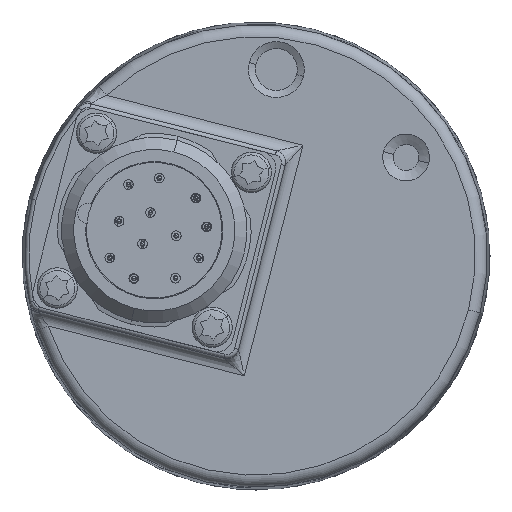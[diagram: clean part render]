
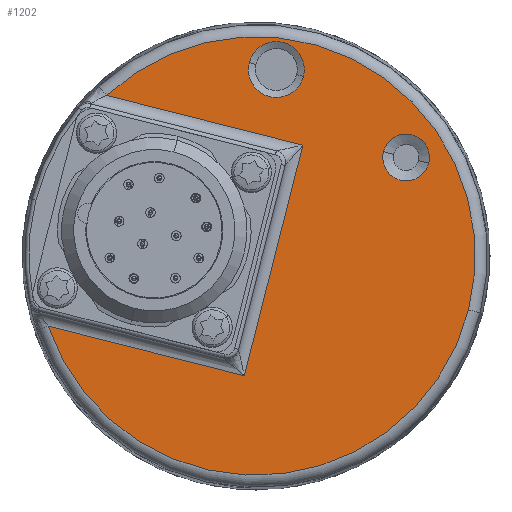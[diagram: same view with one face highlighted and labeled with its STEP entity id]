
A CAD part, left-side view. The second image highlights one B-rep face of the part: STEP entity #1202.
In plain terms, the highlighted planar face has unit normal (-1, 0, 0).
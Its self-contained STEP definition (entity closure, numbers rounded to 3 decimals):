
#694 = CARTESIAN_POINT ( 'NONE',  ( -19., 0., 0. ) ) ;
#695 = AXIS2_PLACEMENT_3D ( 'NONE', #694, #914, #913 ) ;
#696 = CIRCLE ( 'NONE', #695, 27.173 ) ;
#697 = LINE ( 'NONE', #911, #910 ) ;
#909 = DIRECTION ( 'NONE',  ( 0., -0.969, -0.246 ) ) ;
#910 = VECTOR ( 'NONE', #909, 1000. ) ;
#911 = CARTESIAN_POINT ( 'NONE',  ( -19., -4.351, 14.114 ) ) ;
#913 = DIRECTION ( 'NONE',  ( 0., -0.969, -0.246 ) ) ;
#914 = DIRECTION ( 'NONE',  ( -1., 0., 0. ) ) ;
#1003 = VERTEX_POINT ( 'NONE', #4934 ) ;
#1005 = EDGE_CURVE ( 'NONE', #1006, #1003, #4933, .T. ) ;
#1006 = VERTEX_POINT ( 'NONE', #4928 ) ;
#1011 = VERTEX_POINT ( 'NONE', #4973 ) ;
#1017 = EDGE_CURVE ( 'NONE', #1046, #13014, #696, .T. ) ;
#1018 = ORIENTED_EDGE ( 'NONE', *, *, #13013, .T. ) ;
#1019 = ORIENTED_EDGE ( 'NONE', *, *, #1020, .T. ) ;
#1020 = EDGE_CURVE ( 'NONE', #12949, #1011, #697, .T. ) ;
#1021 = ORIENTED_EDGE ( 'NONE', *, *, #1215, .T. ) ;
#1043 = EDGE_LOOP ( 'NONE', ( #1044, #1047, #1018, #1019, #1021 ) ) ;
#1044 = ORIENTED_EDGE ( 'NONE', *, *, #1045, .T. ) ;
#1045 = EDGE_CURVE ( 'NONE', #1077, #1046, #1356, .T. ) ;
#1046 = VERTEX_POINT ( 'NONE', #1352 ) ;
#1047 = ORIENTED_EDGE ( 'NONE', *, *, #1017, .T. ) ;
#1077 = VERTEX_POINT ( 'NONE', #1489 ) ;
#1110 = EDGE_LOOP ( 'NONE', ( #1203, #1204 ) ) ;
#1118 = VERTEX_POINT ( 'NONE', #1600 ) ;
#1120 = EDGE_CURVE ( 'NONE', #1121, #1118, #1599, .T. ) ;
#1121 = VERTEX_POINT ( 'NONE', #1594 ) ;
#1196 = ORIENTED_EDGE ( 'NONE', *, *, #1120, .T. ) ;
#1197 = ORIENTED_EDGE ( 'NONE', *, *, #1229, .T. ) ;
#1202 = ADVANCED_FACE ( 'NONE', ( #2265, #2264, #2263 ), #2321, .F. ) ;
#1203 = ORIENTED_EDGE ( 'NONE', *, *, #1005, .T. ) ;
#1204 = ORIENTED_EDGE ( 'NONE', *, *, #1228, .T. ) ;
#1205 = EDGE_LOOP ( 'NONE', ( #1196, #1197 ) ) ;
#1215 = EDGE_CURVE ( 'NONE', #1011, #1077, #2341, .T. ) ;
#1228 = EDGE_CURVE ( 'NONE', #1003, #1006, #2349, .T. ) ;
#1229 = EDGE_CURVE ( 'NONE', #1118, #1121, #2393, .T. ) ;
#1352 = CARTESIAN_POINT ( 'NONE',  ( -19., 25.745, -8.691 ) ) ;
#1353 = DIRECTION ( 'NONE',  ( 0., 0.969, 0.246 ) ) ;
#1354 = VECTOR ( 'NONE', #1353, 1000. ) ;
#1355 = CARTESIAN_POINT ( 'NONE',  ( -19., 28.251, -8.056 ) ) ;
#1356 = LINE ( 'NONE', #1355, #1354 ) ;
#1489 = CARTESIAN_POINT ( 'NONE',  ( -19., 1.443, -14.851 ) ) ;
#1594 = CARTESIAN_POINT ( 'NONE',  ( -19., -15.791, 12.921 ) ) ;
#1595 = DIRECTION ( 'NONE',  ( 0., -0.969, -0.246 ) ) ;
#1596 = DIRECTION ( 'NONE',  ( 1., 0., 0. ) ) ;
#1597 = CARTESIAN_POINT ( 'NONE',  ( -19., -18.601, 12.209 ) ) ;
#1598 = AXIS2_PLACEMENT_3D ( 'NONE', #1597, #1596, #1595 ) ;
#1599 = CIRCLE ( 'NONE', #1598, 2.899 ) ;
#1600 = CARTESIAN_POINT ( 'NONE',  ( -19., -21.412, 11.496 ) ) ;
#2263 = FACE_OUTER_BOUND ( 'NONE', #1043, .T. ) ;
#2264 = FACE_BOUND ( 'NONE', #1205, .T. ) ;
#2265 = FACE_BOUND ( 'NONE', #1110, .T. ) ;
#2316 = DIRECTION ( 'NONE',  ( 0., -0.969, -0.246 ) ) ;
#2317 = DIRECTION ( 'NONE',  ( 1., 0., 0. ) ) ;
#2318 = CARTESIAN_POINT ( 'NONE',  ( -19., 0., 0. ) ) ;
#2319 = AXIS2_PLACEMENT_3D ( 'NONE', #2318, #2317, #2316 ) ;
#2321 = PLANE ( 'NONE',  #2319 ) ;
#2338 = DIRECTION ( 'NONE',  ( 0., 0.246, -0.969 ) ) ;
#2339 = VECTOR ( 'NONE', #2338, 1000. ) ;
#2340 = CARTESIAN_POINT ( 'NONE',  ( -19., 1.074, -13.397 ) ) ;
#2341 = LINE ( 'NONE', #2340, #2339 ) ;
#2349 = CIRCLE ( 'NONE', #2398, 3.466 ) ;
#2389 = DIRECTION ( 'NONE',  ( 0., -0.969, -0.246 ) ) ;
#2390 = DIRECTION ( 'NONE',  ( 1., 0., 0. ) ) ;
#2391 = CARTESIAN_POINT ( 'NONE',  ( -19., -18.601, 12.209 ) ) ;
#2392 = AXIS2_PLACEMENT_3D ( 'NONE', #2391, #2390, #2389 ) ;
#2393 = CIRCLE ( 'NONE', #2392, 2.899 ) ;
#2395 = DIRECTION ( 'NONE',  ( 0., -0.969, -0.246 ) ) ;
#2396 = DIRECTION ( 'NONE',  ( 1., 0., 0. ) ) ;
#2397 = CARTESIAN_POINT ( 'NONE',  ( -19., -2.52, 23.113 ) ) ;
#2398 = AXIS2_PLACEMENT_3D ( 'NONE', #2397, #2396, #2395 ) ;
#4928 = CARTESIAN_POINT ( 'NONE',  ( -19., 0.84, 23.965 ) ) ;
#4929 = DIRECTION ( 'NONE',  ( 0., -0.969, -0.246 ) ) ;
#4930 = DIRECTION ( 'NONE',  ( 1., 0., 0. ) ) ;
#4931 = CARTESIAN_POINT ( 'NONE',  ( -19., -2.52, 23.113 ) ) ;
#4932 = AXIS2_PLACEMENT_3D ( 'NONE', #4931, #4930, #4929 ) ;
#4933 = CIRCLE ( 'NONE', #4932, 3.466 ) ;
#4934 = CARTESIAN_POINT ( 'NONE',  ( -19., -5.88, 22.262 ) ) ;
#4973 = CARTESIAN_POINT ( 'NONE',  ( -19., -5.805, 13.745 ) ) ;
#6173 = CARTESIAN_POINT ( 'NONE',  ( -19., 18.498, 19.905 ) ) ;
#6320 = CARTESIAN_POINT ( 'NONE',  ( -19., -26.34, -6.676 ) ) ;
#6321 = DIRECTION ( 'NONE',  ( 0., -0.969, -0.246 ) ) ;
#6322 = DIRECTION ( 'NONE',  ( -1., 0., 0. ) ) ;
#6323 = CARTESIAN_POINT ( 'NONE',  ( -19., 0., 0. ) ) ;
#6324 = AXIS2_PLACEMENT_3D ( 'NONE', #6323, #6322, #6321 ) ;
#6325 = CIRCLE ( 'NONE', #6324, 27.173 ) ;
#12949 = VERTEX_POINT ( 'NONE', #6173 ) ;
#13013 = EDGE_CURVE ( 'NONE', #13014, #12949, #6325, .T. ) ;
#13014 = VERTEX_POINT ( 'NONE', #6320 ) ;
